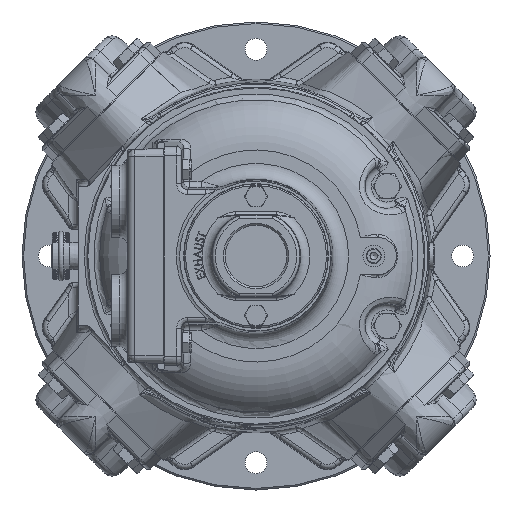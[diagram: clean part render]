
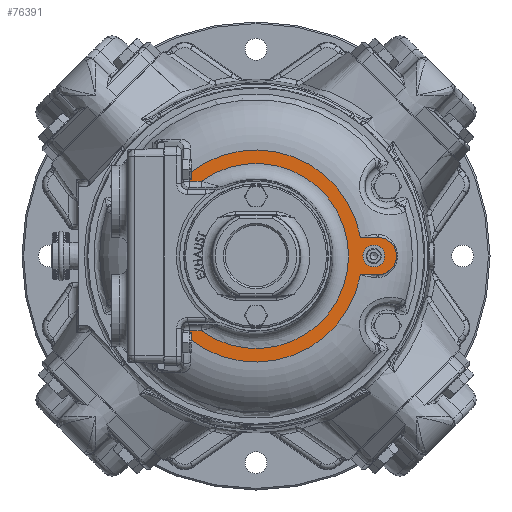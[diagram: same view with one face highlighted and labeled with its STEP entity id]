
A CAD part, left-side view. The second image highlights one B-rep face of the part: STEP entity #76391.
In plain terms, the highlighted planar face has unit normal (-1, 0, 0).
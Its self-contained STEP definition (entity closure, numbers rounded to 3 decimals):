
#237 = CARTESIAN_POINT ( 'NONE',  ( -114.8, 42.655, -47.845 ) ) ;
#935 = DIRECTION ( 'NONE',  ( -1., 0., 0. ) ) ;
#1263 = VECTOR ( 'NONE', #3650, 1000. ) ;
#1334 = EDGE_CURVE ( 'NONE', #96244, #61956, #105672, .T. ) ;
#2063 = EDGE_CURVE ( 'NONE', #73102, #98243, #83378, .T. ) ;
#2463 = CARTESIAN_POINT ( 'NONE',  ( -114.8, -66.933, -12. ) ) ;
#3214 = EDGE_CURVE ( 'NONE', #73102, #38063, #49906, .T. ) ;
#3580 = DIRECTION ( 'NONE',  ( 0., 0., 1. ) ) ;
#3650 = DIRECTION ( 'NONE',  ( 0., 0., -1. ) ) ;
#4929 = ORIENTED_EDGE ( 'NONE', *, *, #2063, .F. ) ;
#5205 = DIRECTION ( 'NONE',  ( -1., 0., 0. ) ) ;
#7704 = ORIENTED_EDGE ( 'NONE', *, *, #34905, .F. ) ;
#9479 = AXIS2_PLACEMENT_3D ( 'NONE', #28224, #935, #84727 ) ;
#9518 = CARTESIAN_POINT ( 'NONE',  ( -114.8, -66.933, 12. ) ) ;
#10784 = VECTOR ( 'NONE', #91354, 1000. ) ;
#12617 = VERTEX_POINT ( 'NONE', #237 ) ;
#13627 = VERTEX_POINT ( 'NONE', #22305 ) ;
#15054 = EDGE_CURVE ( 'NONE', #75814, #54676, #69309, .T. ) ;
#15263 = EDGE_CURVE ( 'NONE', #51668, #51668, #64007, .T. ) ;
#15966 = VERTEX_POINT ( 'NONE', #2463 ) ;
#17545 = EDGE_LOOP ( 'NONE', ( #105925, #7704, #42119, #71881, #32825, #4929, #82440, #69520, #37177, #63109, #96332, #17659 ) ) ;
#17659 = ORIENTED_EDGE ( 'NONE', *, *, #70517, .T. ) ;
#17791 = DIRECTION ( 'NONE',  ( -1., 0., 0. ) ) ;
#17932 = CARTESIAN_POINT ( 'NONE',  ( -114.8, -78., -12. ) ) ;
#18417 = DIRECTION ( 'NONE',  ( 0., 0., -1. ) ) ;
#19174 = DIRECTION ( 'NONE',  ( 0., 1., 0. ) ) ;
#19345 = CARTESIAN_POINT ( 'NONE',  ( -114.8, -75.5, 7. ) ) ;
#20163 = CIRCLE ( 'NONE', #56897, 12. ) ;
#20536 = DIRECTION ( 'NONE',  ( 0., -1., 0. ) ) ;
#20716 = AXIS2_PLACEMENT_3D ( 'NONE', #95763, #69974, #94143 ) ;
#21270 = EDGE_CURVE ( 'NONE', #12617, #81479, #78674, .T. ) ;
#22305 = CARTESIAN_POINT ( 'NONE',  ( -114.8, -78., -12. ) ) ;
#23730 = AXIS2_PLACEMENT_3D ( 'NONE', #60556, #84159, #18417 ) ;
#23976 = CARTESIAN_POINT ( 'NONE',  ( -114.8, -78., 12. ) ) ;
#25739 = VECTOR ( 'NONE', #3580, 1000. ) ;
#26728 = CIRCLE ( 'NONE', #35411, 68. ) ;
#27929 = CARTESIAN_POINT ( 'NONE',  ( -114.8, 42.655, 47.845 ) ) ;
#28224 = CARTESIAN_POINT ( 'NONE',  ( -114.8, -78., 0. ) ) ;
#28352 = EDGE_CURVE ( 'NONE', #15966, #13627, #75983, .T. ) ;
#29924 = VERTEX_POINT ( 'NONE', #46716 ) ;
#30431 = DIRECTION ( 'NONE',  ( 1., 0., 0. ) ) ;
#30910 = CARTESIAN_POINT ( 'NONE',  ( -114.8, -78., 0. ) ) ;
#32825 = ORIENTED_EDGE ( 'NONE', *, *, #102413, .F. ) ;
#34810 = DIRECTION ( 'NONE',  ( 1., 0., 0. ) ) ;
#34905 = EDGE_CURVE ( 'NONE', #54676, #61956, #20163, .T. ) ;
#35411 = AXIS2_PLACEMENT_3D ( 'NONE', #76444, #34810, #101675 ) ;
#37177 = ORIENTED_EDGE ( 'NONE', *, *, #21270, .T. ) ;
#37525 = CARTESIAN_POINT ( 'NONE',  ( -114.8, 42.655, 68. ) ) ;
#37600 = CARTESIAN_POINT ( 'NONE',  ( -114.8, 42.655, -68. ) ) ;
#38063 = VERTEX_POINT ( 'NONE', #61547 ) ;
#42119 = ORIENTED_EDGE ( 'NONE', *, *, #15054, .F. ) ;
#42675 = AXIS2_PLACEMENT_3D ( 'NONE', #92847, #17791, #50629 ) ;
#42854 = DIRECTION ( 'NONE',  ( -1., 0., 0. ) ) ;
#44881 = CARTESIAN_POINT ( 'NONE',  ( -114.8, 0., -47.845 ) ) ;
#45879 = CARTESIAN_POINT ( 'NONE',  ( -114.8, -78.732, 11.978 ) ) ;
#46630 = CARTESIAN_POINT ( 'NONE',  ( -114.8, -78.732, -11.978 ) ) ;
#46716 = CARTESIAN_POINT ( 'NONE',  ( -114.8, 42.655, 52.958 ) ) ;
#46858 = DIRECTION ( 'NONE',  ( 0., 0., -1. ) ) ;
#49906 = CIRCLE ( 'NONE', #23730, 59.328 ) ;
#49975 = CARTESIAN_POINT ( 'NONE',  ( -114.8, -75.5, 0. ) ) ;
#50520 = DIRECTION ( 'NONE',  ( 0., 0., 1. ) ) ;
#50629 = DIRECTION ( 'NONE',  ( 0., 0., 1. ) ) ;
#51668 = VERTEX_POINT ( 'NONE', #19345 ) ;
#52313 = CARTESIAN_POINT ( 'NONE',  ( -114.8, -78., 12. ) ) ;
#52891 = EDGE_CURVE ( 'NONE', #15966, #81479, #26728, .T. ) ;
#54534 = AXIS2_PLACEMENT_3D ( 'NONE', #30910, #5205, #95615 ) ;
#54676 = VERTEX_POINT ( 'NONE', #23976 ) ;
#56897 = AXIS2_PLACEMENT_3D ( 'NONE', #87993, #30431, #46858 ) ;
#60412 = VECTOR ( 'NONE', #20536, 1000. ) ;
#60556 = CARTESIAN_POINT ( 'NONE',  ( -114.8, 0., 0. ) ) ;
#61547 = CARTESIAN_POINT ( 'NONE',  ( -114.8, 35.082, -47.845 ) ) ;
#61956 = VERTEX_POINT ( 'NONE', #45879 ) ;
#63109 = ORIENTED_EDGE ( 'NONE', *, *, #52891, .F. ) ;
#64007 = CIRCLE ( 'NONE', #102525, 7. ) ;
#67075 = PLANE ( 'NONE',  #42675 ) ;
#68160 = EDGE_CURVE ( 'NONE', #75814, #29924, #99495, .T. ) ;
#68474 = LINE ( 'NONE', #44881, #70451 ) ;
#69309 = LINE ( 'NONE', #52313, #60412 ) ;
#69520 = ORIENTED_EDGE ( 'NONE', *, *, #104166, .T. ) ;
#69974 = DIRECTION ( 'NONE',  ( -1., 0., 0. ) ) ;
#70451 = VECTOR ( 'NONE', #19174, 1000. ) ;
#70517 = EDGE_CURVE ( 'NONE', #13627, #96244, #101851, .T. ) ;
#71881 = ORIENTED_EDGE ( 'NONE', *, *, #68160, .T. ) ;
#73102 = VERTEX_POINT ( 'NONE', #95124 ) ;
#75688 = CARTESIAN_POINT ( 'NONE',  ( -114.8, 0., 47.845 ) ) ;
#75814 = VERTEX_POINT ( 'NONE', #9518 ) ;
#75983 = LINE ( 'NONE', #17932, #10784 ) ;
#76391 = ADVANCED_FACE ( 'NONE', ( #85174, #77434 ), #67075, .T. ) ;
#76444 = CARTESIAN_POINT ( 'NONE',  ( -114.8, 0., 0. ) ) ;
#76656 = EDGE_LOOP ( 'NONE', ( #81867 ) ) ;
#76755 = DIRECTION ( 'NONE',  ( 0., 1., 0. ) ) ;
#77434 = FACE_BOUND ( 'NONE', #76656, .T. ) ;
#78674 = LINE ( 'NONE', #37600, #1263 ) ;
#81479 = VERTEX_POINT ( 'NONE', #99698 ) ;
#81867 = ORIENTED_EDGE ( 'NONE', *, *, #15263, .F. ) ;
#82440 = ORIENTED_EDGE ( 'NONE', *, *, #3214, .T. ) ;
#83378 = LINE ( 'NONE', #75688, #100644 ) ;
#84159 = DIRECTION ( 'NONE',  ( 1., 0., 0. ) ) ;
#84727 = DIRECTION ( 'NONE',  ( 0., 0., 1. ) ) ;
#85174 = FACE_OUTER_BOUND ( 'NONE', #17545, .T. ) ;
#87993 = CARTESIAN_POINT ( 'NONE',  ( -114.8, -78., 0. ) ) ;
#88491 = LINE ( 'NONE', #37525, #25739 ) ;
#91354 = DIRECTION ( 'NONE',  ( 0., -1., 0. ) ) ;
#92847 = CARTESIAN_POINT ( 'NONE',  ( -114.8, 0., -68. ) ) ;
#94143 = DIRECTION ( 'NONE',  ( 0., 0., 1. ) ) ;
#95124 = CARTESIAN_POINT ( 'NONE',  ( -114.8, 35.082, 47.845 ) ) ;
#95615 = DIRECTION ( 'NONE',  ( 0., 0., 1. ) ) ;
#95763 = CARTESIAN_POINT ( 'NONE',  ( -114.8, 0., 0. ) ) ;
#96244 = VERTEX_POINT ( 'NONE', #46630 ) ;
#96332 = ORIENTED_EDGE ( 'NONE', *, *, #28352, .T. ) ;
#98243 = VERTEX_POINT ( 'NONE', #27929 ) ;
#99495 = CIRCLE ( 'NONE', #20716, 68. ) ;
#99698 = CARTESIAN_POINT ( 'NONE',  ( -114.8, 42.655, -52.958 ) ) ;
#100644 = VECTOR ( 'NONE', #76755, 1000. ) ;
#101675 = DIRECTION ( 'NONE',  ( 0., 0., -1. ) ) ;
#101851 = CIRCLE ( 'NONE', #54534, 12. ) ;
#102413 = EDGE_CURVE ( 'NONE', #98243, #29924, #88491, .T. ) ;
#102525 = AXIS2_PLACEMENT_3D ( 'NONE', #49975, #42854, #50520 ) ;
#104166 = EDGE_CURVE ( 'NONE', #38063, #12617, #68474, .T. ) ;
#105672 = CIRCLE ( 'NONE', #9479, 12. ) ;
#105925 = ORIENTED_EDGE ( 'NONE', *, *, #1334, .T. ) ;
